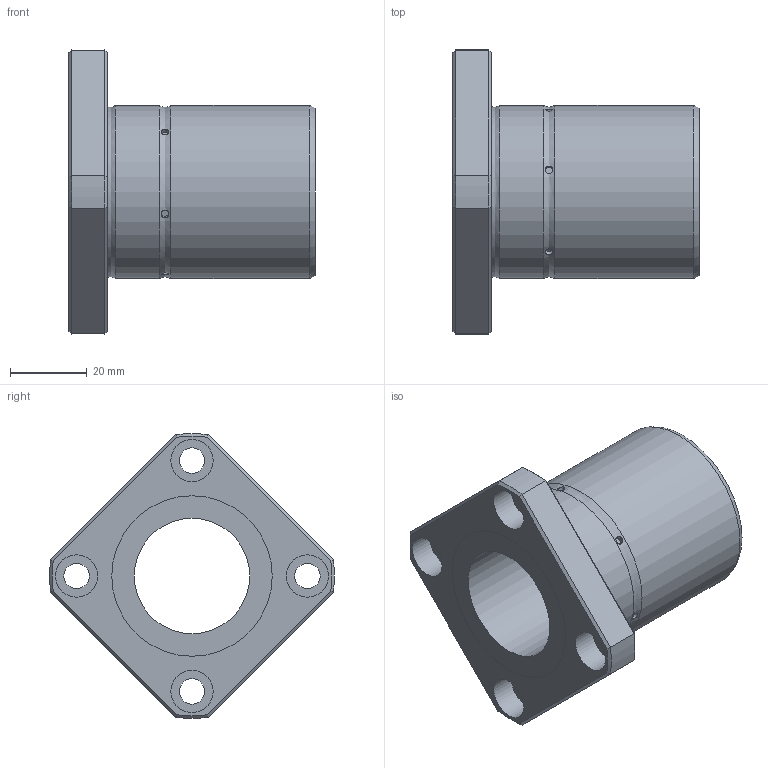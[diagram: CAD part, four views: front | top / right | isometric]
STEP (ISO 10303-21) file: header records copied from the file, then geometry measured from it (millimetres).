
FILE_DESCRIPTION((''),'2;1');
FILE_NAME('D:\製品 (図面)\カタログ用3D\リニアベアリング関連\STEP形式\LFK-OH\LFK30-OH.stp','2010-06-04T08:56:40',('Tsuchiya'),(''),'Autodesk Inventor 10','Autodesk Inventor 10','');
FILE_SCHEMA(('AUTOMOTIVE_DESIGN { 1 0 10303 214 1 1 1 1 }'));
Length unit declared in the file: millimetre
Products named in the file (1): LFK30-OH
Bounding box: 64 x 73.95 x 73.95 mm (x, y, z)
Volume: 70086 mm3; surface area: 21824.9 mm2
Topology: 1 solids, 1 shells, 61 faces, 124 edges, 78 vertices
Faces by surface type: cylinder 23, plane 21, bspline 8, cone 8, torus 1
Full cylindrical faces by diameter (mm): 6.6 x4, 11 x4, 30 x1, 41.7 x2, 45 x2
Entity records: 2213 total; most frequent: CARTESIAN_POINT 1062, DIRECTION 220, ORIENTED_EDGE 192, EDGE_LOOP 106, AXIS2_PLACEMENT_3D 98, EDGE_CURVE 96, VERTEX_POINT 72, FACE_OUTER_BOUND 61
